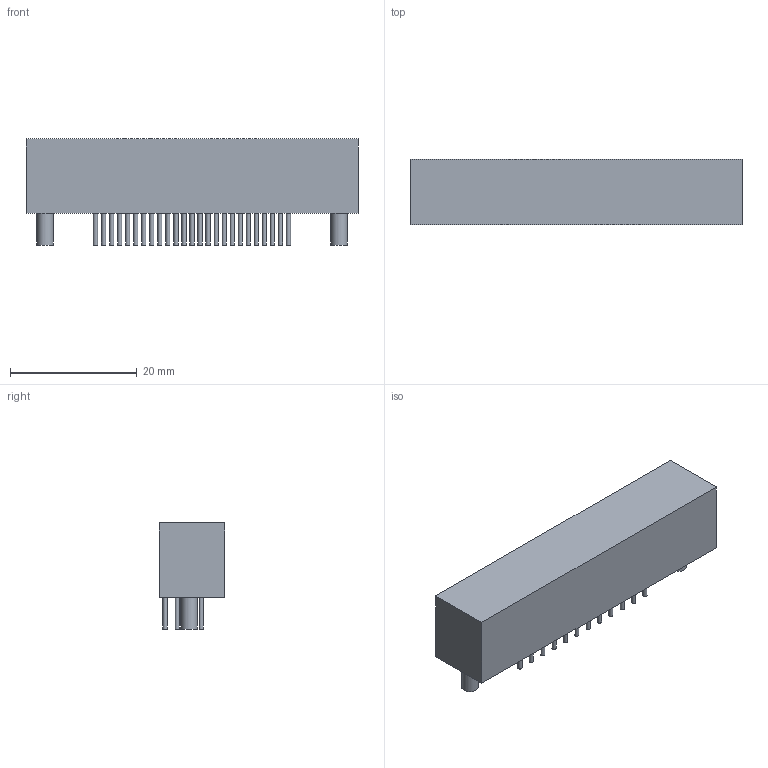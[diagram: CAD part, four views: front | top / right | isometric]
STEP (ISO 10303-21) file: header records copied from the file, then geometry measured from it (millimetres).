
FILE_DESCRIPTION(('FreeCAD Model'),'2;1');
FILE_NAME('/var/www/3D/0T/673346.1.2.stp','2019-08-30T17:17:07',( 'Author'),(''),'Open CASCADE STEP processor 6.9','FreeCAD','Unknown' );
FILE_SCHEMA(('AUTOMOTIVE_DESIGN { 1 0 10303 214 1 1 1 1 }'));
Length unit declared in the file: millimetre
Products named in the file (3): ASSEMBLY; Body; Leads
Assembly tree (53 placements, depth 2):
  ASSEMBLY
    Body
    Leads  x52
Bounding box: 52.45 x 10.31 x 16.76 mm (x, y, z)
Surface area: 36693 mm2
Topology: 2705 solids, 2705 shells, 8118 faces, 8124 edges, 5416 vertices
Faces by surface type: plane 5414, cylinder 2704
Full cylindrical faces by diameter (mm): 0.66 x2600, 2.62 x104
Entity records: 6031 total; most frequent: DIRECTION 1040, CARTESIAN_POINT 832, ORIENTED_EDGE 336, PCURVE 336, DEFINITIONAL_REPRESENTATION 336, AXIS2_PLACEMENT_3D 320, LINE 296, VECTOR 296
